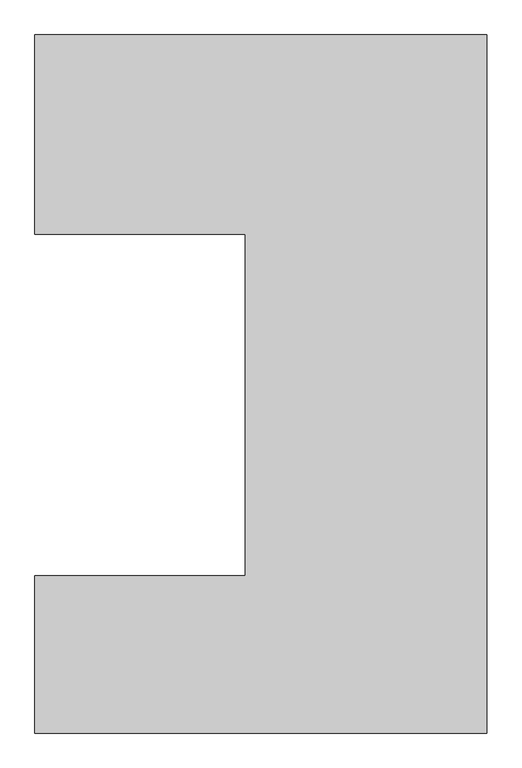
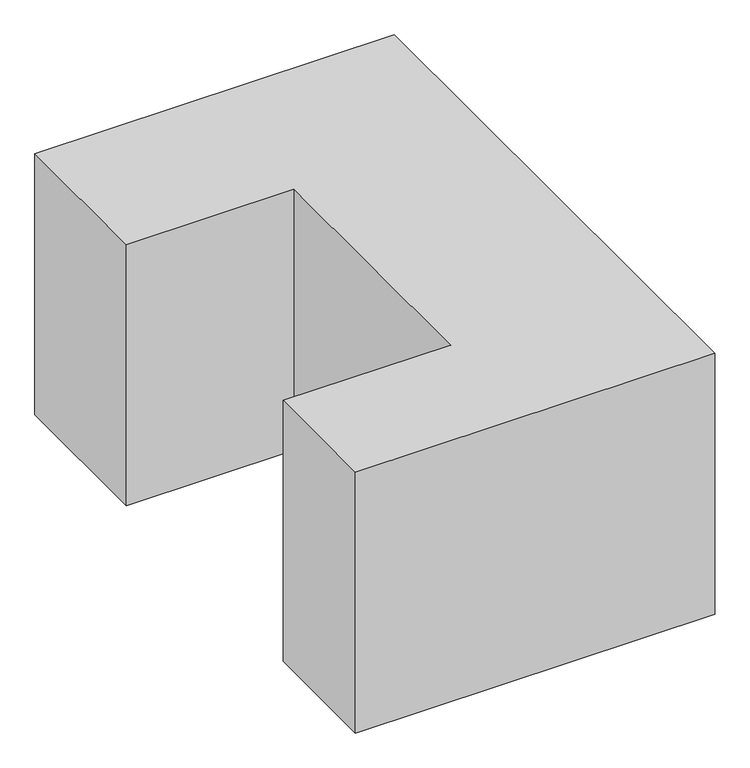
"""IFC4 building model written with IfcOpenShell, lengths in millimetres: proxy geometry."""

from ifc_helpers import new_model, si_unit, origin, origin_with_axes, place, context, project, spatial, polyline, outline, extrude, source, transform, mapped, element, save


def generic_models_74c78f4d(model_context):
    return source(origin(), model_context, "Body", "SweptSolid", [
        extrude(outline(polyline([(-83941.9987767, -12899.999999), (-83941.9987767, -11099.999999), (-79864.998776, -11099.999999), (-79864.998776, -17400.7903364), (-83941.9987767, -17400.7903364), (-83941.9987767, -15980.7903364), (-82041.9987767, -15980.7903364), (-82041.9987767, -12899.999999), (-83941.9987767, -12899.999999)])), origin_with_axes(), (0.0, 0.0, 1.0), 3130.0),
    ])


if __name__ == "__main__":
    model = new_model("IFC4")
    model_context = context("Model", 3, world=origin())
    ifc_project = project(units=[si_unit("LENGTHUNIT", "METRE", prefix="MILLI")], contexts=[model_context])
    site = spatial("IfcSite", under=ifc_project)
    building = spatial("IfcBuilding", under=site)
    placement = place(None, origin())
    generic_models_shape = generic_models_74c78f4d(model_context)
    element("IfcBuildingElementProxy", 1, Name="Generic Models", at=placement, inside=building, context=model_context, shape_type="MappedRepresentation", body=[
        mapped(generic_models_shape, transform((0.0, 0.0, 0.0), x_axis=(1.0, 0.0, 0.0), y_axis=(0.0, 1.0, 0.0), z_axis=(0.0, 0.0, 1.0))),
    ])
    save(model, "model.ifc")
